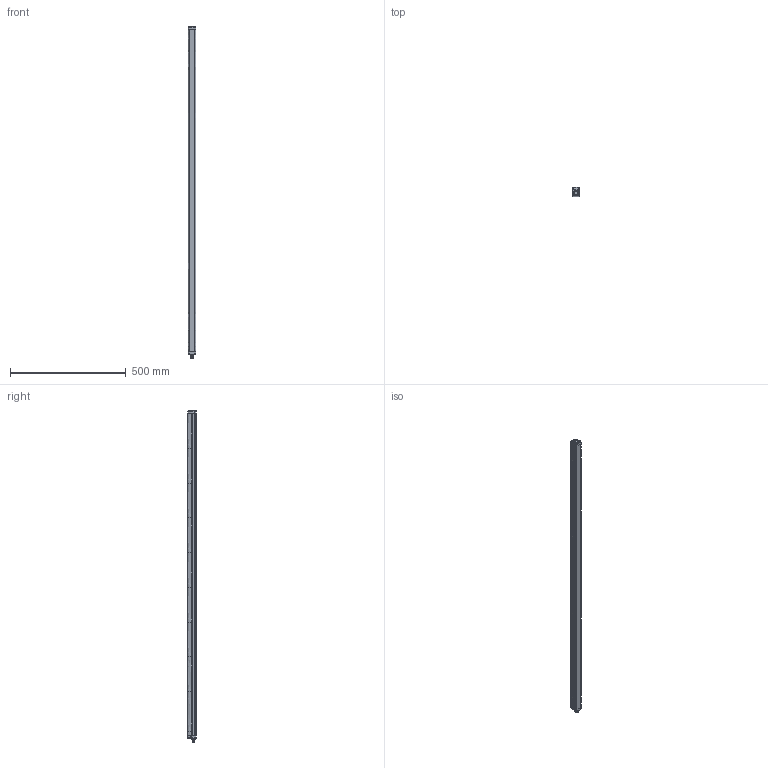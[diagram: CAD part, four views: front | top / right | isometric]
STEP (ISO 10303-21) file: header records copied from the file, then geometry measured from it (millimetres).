
FILE_DESCRIPTION((''),'2;1');
FILE_NAME('2008584','2011-03-28T',('rink'),(''),'PRO/ENGINEER BY PARAMETRIC TECHNOLOGY CORPORATION, 2009380','PRO/ENGINEER BY PARAMETRIC TECHNOLOGY CORPORATION, 2009380','');
FILE_SCHEMA(('AUTOMOTIVE_DESIGN_CC2 { 1 2 10303 214 -1 1 5 2 }'));
Products named in the file (1): 2008584
Bounding box: 32.3 x 37.08 x 1433.24 mm (x, y, z)
Volume: 1436275.9 mm3; surface area: 333540.2 mm2
Topology: 17 solids, 167 shells, 1809 faces, 4873 edges, 3046 vertices
Faces by surface type: cylinder 645, plane 406, torus 278, bspline 215, sphere 124, extrusion 99, cone 42
Entity records: 91696 total; most frequent: CARTESIAN_POINT 33649, DIRECTION 8720, ORIENTED_EDGE 8508, PRESENTATION_STYLE_ASSIGNMENT 4941, STYLED_ITEM 4936, CURVE_STYLE 4769, EDGE_CURVE 4764, AXIS2_PLACEMENT_3D 3556
